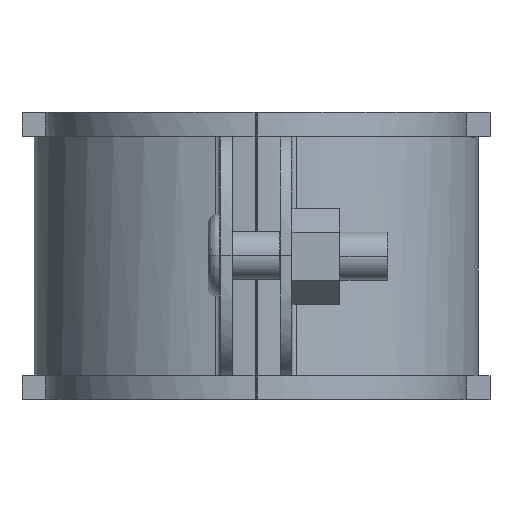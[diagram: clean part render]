
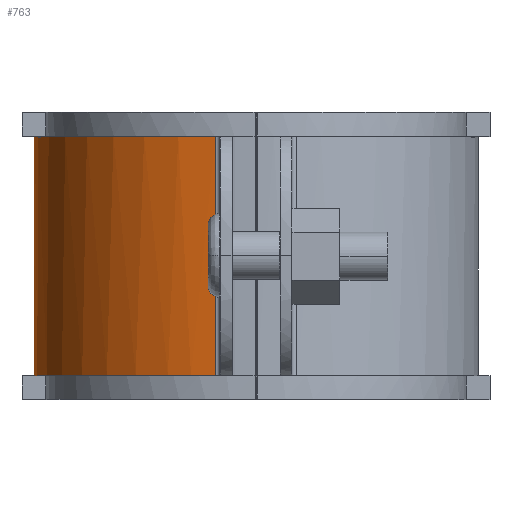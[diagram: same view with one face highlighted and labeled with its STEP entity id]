
A CAD part, top view. The second image highlights one B-rep face of the part: STEP entity #763.
In plain terms, the highlighted free-form (B-spline) face has degree [3, 1] with [4, 2] control points.
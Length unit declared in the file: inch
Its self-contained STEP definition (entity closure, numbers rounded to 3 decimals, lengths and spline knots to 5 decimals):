
#421=EDGE_CURVE('',#1101,#1004,#1102,.T.);
#457=EDGE_CURVE('',#1004,#1159,#1160,.T.);
#763=ADVANCED_FACE('',(#1587),#1588,.T.);
#799=EDGE_CURVE('',#1633,#1101,#1634,.T.);
#923=EDGE_CURVE('',#1633,#1159,#1794,.T.);
#1004=VERTEX_POINT('',#2020);
#1101=VERTEX_POINT('',#2166);
#1102=LINE('',#2167,#2168);
#1159=VERTEX_POINT('',#2270);
#1160=B_SPLINE_CURVE_WITH_KNOTS('',3,(#2271,#2272,#2273,#2274),.UNSPECIFIED.,.F.,.F.,(4,4),(0.0,1.0),.UNSPECIFIED.);
#1587=FACE_OUTER_BOUND('',#3103,.T.);
#1588=B_SPLINE_SURFACE_WITH_KNOTS('',3,1,((#3104,#3105),(#3106,#3107),(#3108,#3109),(#3110,#3111)),.UNSPECIFIED.,.F.,.F.,.F.,(4,4),(2,2),(-1.0,-0.0),(0.0,1.25),.UNSPECIFIED.);
#1633=VERTEX_POINT('',#3190);
#1634=B_SPLINE_CURVE_WITH_KNOTS('',3,(#3191,#3192,#3193,#3194),.UNSPECIFIED.,.F.,.F.,(4,4),(-1.0,-0.0),.UNSPECIFIED.);
#1794=LINE('',#3555,#3556);
#2020=CARTESIAN_POINT('',(0.00012,0.0,1.84081));
#2166=CARTESIAN_POINT('',(0.00012,1.24627,1.84081));
#2167=CARTESIAN_POINT('',(0.00012,1.25,1.84081));
#2168=VECTOR('',#3738,1.0);
#2270=CARTESIAN_POINT('',(0.94733,0.0,2.98134));
#2271=CARTESIAN_POINT('',(0.00012,0.0,1.84081));
#2272=CARTESIAN_POINT('',(0.00012,0.0,2.42002));
#2273=CARTESIAN_POINT('',(0.40834,0.0,2.88361));
#2274=CARTESIAN_POINT('',(0.94733,0.0,2.98134));
#3103=EDGE_LOOP('',(#4518,#4519,#4520,#4521));
#3104=CARTESIAN_POINT('',(0.94733,1.25,2.98134));
#3105=CARTESIAN_POINT('',(0.94733,0.0,2.98134));
#3106=CARTESIAN_POINT('',(0.40834,1.25,2.88361));
#3107=CARTESIAN_POINT('',(0.40834,0.0,2.88361));
#3108=CARTESIAN_POINT('',(0.00012,1.25,2.42002));
#3109=CARTESIAN_POINT('',(0.00012,0.0,2.42002));
#3110=CARTESIAN_POINT('',(0.00012,1.25,1.84081));
#3111=CARTESIAN_POINT('',(0.00012,0.0,1.84081));
#3190=CARTESIAN_POINT('',(0.94733,1.24627,2.98134));
#3191=CARTESIAN_POINT('',(0.94733,1.24627,2.98134));
#3192=CARTESIAN_POINT('',(0.40834,1.24627,2.88361));
#3193=CARTESIAN_POINT('',(0.00012,1.24627,2.42002));
#3194=CARTESIAN_POINT('',(0.00012,1.24627,1.84081));
#3555=CARTESIAN_POINT('',(0.94733,1.25,2.98134));
#3556=VECTOR('',#4885,1.0);
#3738=DIRECTION('',(0.0,-1.0,0.0));
#4518=ORIENTED_EDGE('',*,*,#799,.T.);
#4519=ORIENTED_EDGE('',*,*,#421,.T.);
#4520=ORIENTED_EDGE('',*,*,#457,.T.);
#4521=ORIENTED_EDGE('',*,*,#923,.F.);
#4885=DIRECTION('',(0.0,-1.0,0.0));
